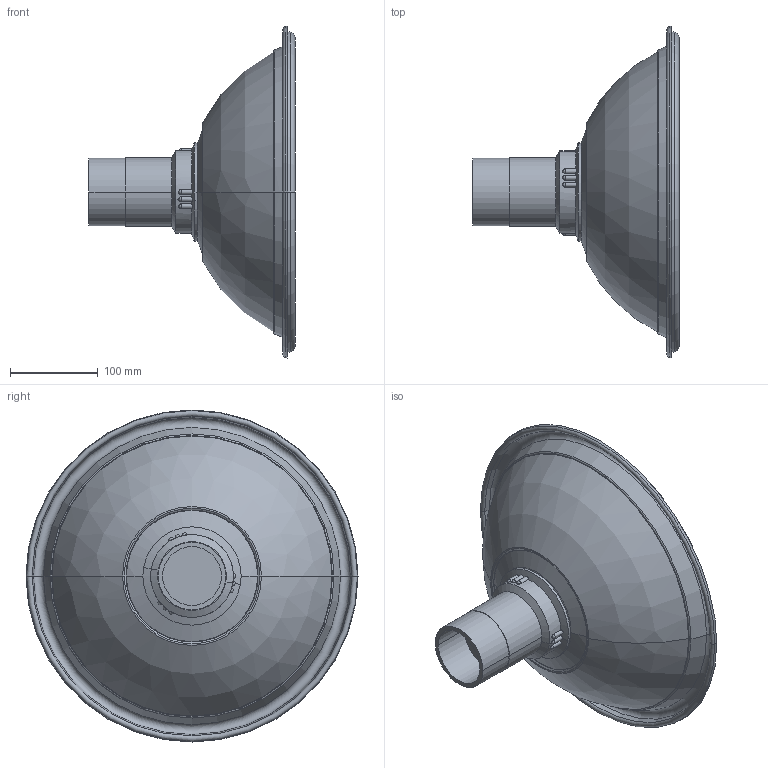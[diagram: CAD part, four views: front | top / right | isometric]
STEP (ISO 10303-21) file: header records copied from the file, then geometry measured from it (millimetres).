
FILE_DESCRIPTION((''),'2;1');
FILE_NAME('MEK350-75','2015-12-02T',('Tomas Bellgran'),(''),'PRO/ENGINEER BY PARAMETRIC TECHNOLOGY CORPORATION, 2013410','PRO/ENGINEER BY PARAMETRIC TECHNOLOGY CORPORATION, 2013410','');
FILE_SCHEMA(('AUTOMOTIVE_DESIGN { 1 0 10303 214 1 1 1 1 }'));
Length unit declared in the file: millimetre
Products named in the file (6): 116336_AF0; 117006_AF0; 117012; 116472; 117011; MEK350-75
Assembly tree (5 placements, depth 3):
  MEK350-75
    117012
      116336_AF0
      117006_AF0
    116472
    117011
Bounding box: 235.19 x 378.56 x 378.56 mm (x, y, z)
Volume: 714546.3 mm3; surface area: 422556.9 mm2
Topology: 4 solids, 4 shells, 153 faces, 331 edges, 187 vertices
Faces by surface type: cylinder 33, cone 30, plane 27, torus 24, sphere 21, bspline 18
Entity records: 7658 total; most frequent: CARTESIAN_POINT 2519, DIRECTION 740, ORIENTED_EDGE 662, EDGE_CURVE 331, AXIS2_PLACEMENT_3D 325, PROPERTY_DEFINITION 237, REPRESENTATION 233, PROPERTY_DEFINITION_REPRESENTATION 233
